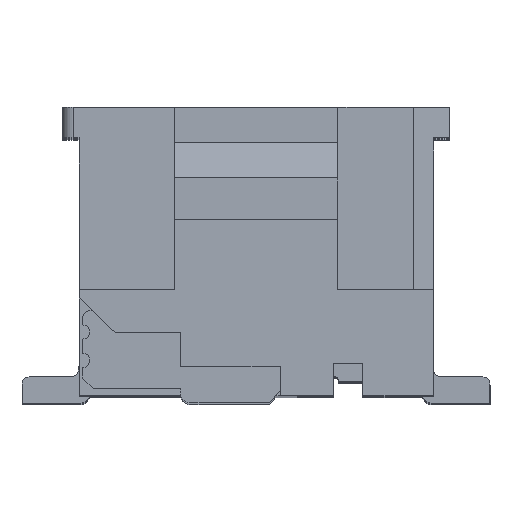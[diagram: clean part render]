
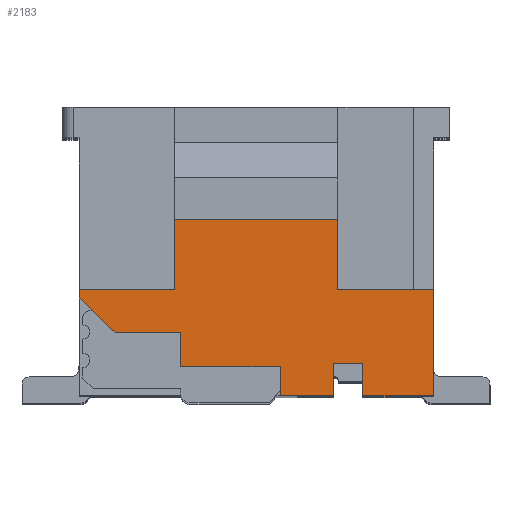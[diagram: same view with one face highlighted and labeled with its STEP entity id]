
A CAD part, top view. The second image highlights one B-rep face of the part: STEP entity #2183.
In plain terms, the highlighted planar face has unit normal (0, 0, 1).
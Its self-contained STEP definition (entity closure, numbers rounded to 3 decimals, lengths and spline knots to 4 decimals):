
#2183=ADVANCED_FACE('',(#6015),#4298,.F.);
#4298=PLANE('',#46801);
#6015=FACE_OUTER_BOUND('',#8203,.T.);
#8203=EDGE_LOOP('',(#11823,#11824,#11825,#11826,#11827,#11828,#11829,#11830,
#11831,#11832,#11833,#11834,#11835,#11836,#11837,#11838,#11839));
#11823=ORIENTED_EDGE('',*,*,#28836,.T.);
#11824=ORIENTED_EDGE('',*,*,#29177,.F.);
#11825=ORIENTED_EDGE('',*,*,#29245,.F.);
#11826=ORIENTED_EDGE('',*,*,#29181,.F.);
#11827=ORIENTED_EDGE('',*,*,#28826,.F.);
#11828=ORIENTED_EDGE('',*,*,#28824,.F.);
#11829=ORIENTED_EDGE('',*,*,#28822,.F.);
#11830=ORIENTED_EDGE('',*,*,#29087,.F.);
#11831=ORIENTED_EDGE('',*,*,#29246,.F.);
#11832=ORIENTED_EDGE('',*,*,#29091,.F.);
#11833=ORIENTED_EDGE('',*,*,#28820,.F.);
#11834=ORIENTED_EDGE('',*,*,#28817,.F.);
#11835=ORIENTED_EDGE('',*,*,#29244,.F.);
#11836=ORIENTED_EDGE('',*,*,#29247,.F.);
#11837=ORIENTED_EDGE('',*,*,#29248,.F.);
#11838=ORIENTED_EDGE('',*,*,#28829,.T.);
#11839=ORIENTED_EDGE('',*,*,#28810,.T.);
#24167=VERTEX_POINT('',#63085);
#24168=VERTEX_POINT('',#63087);
#24170=VERTEX_POINT('',#63093);
#24174=VERTEX_POINT('',#63100);
#24175=VERTEX_POINT('',#63104);
#24177=VERTEX_POINT('',#63110);
#24178=VERTEX_POINT('',#63112);
#24179=VERTEX_POINT('',#63116);
#24180=VERTEX_POINT('',#63120);
#24181=VERTEX_POINT('',#63126);
#24185=VERTEX_POINT('',#63140);
#24367=VERTEX_POINT('',#63654);
#24368=VERTEX_POINT('',#63658);
#24426=VERTEX_POINT('',#63831);
#24429=VERTEX_POINT('',#63839);
#24460=VERTEX_POINT('',#63956);
#24461=VERTEX_POINT('',#63962);
#28810=EDGE_CURVE('',#24168,#24167,#35486,.T.);
#28817=EDGE_CURVE('',#24174,#24170,#35493,.T.);
#28820=EDGE_CURVE('',#24170,#24175,#35496,.T.);
#28822=EDGE_CURVE('',#24177,#24178,#35498,.T.);
#28824=EDGE_CURVE('',#24178,#24179,#35500,.T.);
#28826=EDGE_CURVE('',#24179,#24180,#35502,.T.);
#28829=EDGE_CURVE('',#24181,#24168,#35505,.T.);
#28836=EDGE_CURVE('',#24167,#24185,#35512,.T.);
#29087=EDGE_CURVE('',#24367,#24177,#35715,.T.);
#29091=EDGE_CURVE('',#24175,#24368,#35719,.T.);
#29177=EDGE_CURVE('',#24426,#24185,#35803,.T.);
#29181=EDGE_CURVE('',#24180,#24429,#35807,.T.);
#29244=EDGE_CURVE('',#24460,#24174,#35870,.T.);
#29245=EDGE_CURVE('',#24429,#24426,#35871,.T.);
#29246=EDGE_CURVE('',#24368,#24367,#35872,.T.);
#29247=EDGE_CURVE('',#24461,#24460,#35873,.T.);
#29248=EDGE_CURVE('',#24181,#24461,#35874,.T.);
#35486=LINE('',#63086,#41099);
#35493=LINE('',#63101,#41106);
#35496=LINE('',#63107,#41109);
#35498=LINE('',#63111,#41111);
#35500=LINE('',#63115,#41113);
#35502=LINE('',#63119,#41115);
#35505=LINE('',#63125,#41118);
#35512=LINE('',#63139,#41125);
#35715=LINE('',#63655,#41328);
#35719=LINE('',#63663,#41332);
#35803=LINE('',#63830,#41416);
#35807=LINE('',#63838,#41420);
#35870=LINE('',#63957,#41483);
#35871=LINE('',#63959,#41484);
#35872=LINE('',#63960,#41485);
#35873=LINE('',#63961,#41486);
#35874=LINE('',#63963,#41487);
#41099=VECTOR('',#50680,1.);
#41106=VECTOR('',#50689,1.);
#41109=VECTOR('',#50694,1.);
#41111=VECTOR('',#50698,1.);
#41113=VECTOR('',#50702,1.);
#41115=VECTOR('',#50706,1.);
#41118=VECTOR('',#50713,1.);
#41125=VECTOR('',#50726,1.);
#41328=VECTOR('',#51165,1.);
#41332=VECTOR('',#51171,1.);
#41416=VECTOR('',#51311,1.);
#41420=VECTOR('',#51317,1.);
#41483=VECTOR('',#51428,1.);
#41484=VECTOR('',#51431,1.);
#41485=VECTOR('',#51432,1.);
#41486=VECTOR('',#51433,1.);
#41487=VECTOR('',#51434,1.);
#46801=AXIS2_PLACEMENT_3D('',#63964,#51435,#51436);
#50680=DIRECTION('',(-1.,0.,0.));
#50689=DIRECTION('',(0.,1.,0.));
#50694=DIRECTION('',(-1.,0.,0.));
#50698=DIRECTION('',(-1.,0.,0.));
#50702=DIRECTION('',(0.,1.,0.));
#50706=DIRECTION('',(-1.,0.,0.));
#50713=DIRECTION('',(0.,1.,0.));
#50726=DIRECTION('',(0.,-1.,0.));
#51165=DIRECTION('',(0.,1.,0.));
#51171=DIRECTION('',(0.,-1.,0.));
#51311=DIRECTION('',(1.,0.,0.));
#51317=DIRECTION('',(-0.719,0.695,0.));
#51428=DIRECTION('',(-1.,0.,0.));
#51431=DIRECTION('',(0.,1.,0.));
#51432=DIRECTION('',(-1.,0.,0.));
#51433=DIRECTION('',(0.,-1.,0.));
#51434=DIRECTION('',(1.,0.,0.));
#51435=DIRECTION('',(0.,0.,-1.));
#51436=DIRECTION('',(1.,0.,0.));
#63085=CARTESIAN_POINT('',(-2.6606,0.0751,7.2));
#63086=CARTESIAN_POINT('',(-2.6606,0.0751,7.2));
#63087=CARTESIAN_POINT('',(-0.3606,0.0751,7.2));
#63093=CARTESIAN_POINT('',(-0.0106,-1.9549,7.2));
#63100=CARTESIAN_POINT('',(-0.0106,-2.4149,7.2));
#63101=CARTESIAN_POINT('',(-0.0106,-2.4149,7.2));
#63104=CARTESIAN_POINT('',(-0.4206,-1.9549,7.2));
#63107=CARTESIAN_POINT('',(-0.0106,-1.9549,7.2));
#63110=CARTESIAN_POINT('',(-1.1732,-2.0049,7.2));
#63111=CARTESIAN_POINT('',(-2.5832,-2.0049,7.2));
#63112=CARTESIAN_POINT('',(-2.5832,-2.0049,7.2));
#63115=CARTESIAN_POINT('',(-2.5832,-1.5249,7.2));
#63116=CARTESIAN_POINT('',(-2.5832,-1.5249,7.2));
#63119=CARTESIAN_POINT('',(-3.5032,-1.5249,7.2));
#63120=CARTESIAN_POINT('',(-3.5032,-1.5249,7.2));
#63125=CARTESIAN_POINT('',(-0.3606,0.0751,7.2));
#63126=CARTESIAN_POINT('',(-0.3606,-0.9149,7.2));
#63139=CARTESIAN_POINT('',(-2.6606,0.0751,7.2));
#63140=CARTESIAN_POINT('',(-2.6606,-0.9149,7.2));
#63654=CARTESIAN_POINT('',(-1.1732,-2.4149,7.2));
#63655=CARTESIAN_POINT('',(-1.1732,-2.0049,7.2));
#63658=CARTESIAN_POINT('',(-0.4206,-2.4149,7.2));
#63663=CARTESIAN_POINT('',(-0.4206,-1.9549,7.2));
#63830=CARTESIAN_POINT('',(-5.2806,-0.9149,7.2));
#63831=CARTESIAN_POINT('',(-4.0106,-0.9149,7.2));
#63838=CARTESIAN_POINT('',(-4.0106,-1.0349,7.2));
#63839=CARTESIAN_POINT('',(-4.0106,-1.0349,7.2));
#63956=CARTESIAN_POINT('',(0.9894,-2.4149,7.2));
#63957=CARTESIAN_POINT('',(0.9894,-2.4149,7.2));
#63959=CARTESIAN_POINT('',(-4.0106,-2.4149,7.2));
#63960=CARTESIAN_POINT('',(-0.4206,-2.4149,7.2));
#63961=CARTESIAN_POINT('',(0.9894,1.2203,7.2));
#63962=CARTESIAN_POINT('',(0.9894,-0.9149,7.2));
#63963=CARTESIAN_POINT('',(-5.2806,-0.9149,7.2));
#63964=CARTESIAN_POINT('',(-5.2806,-0.9149,7.2));
